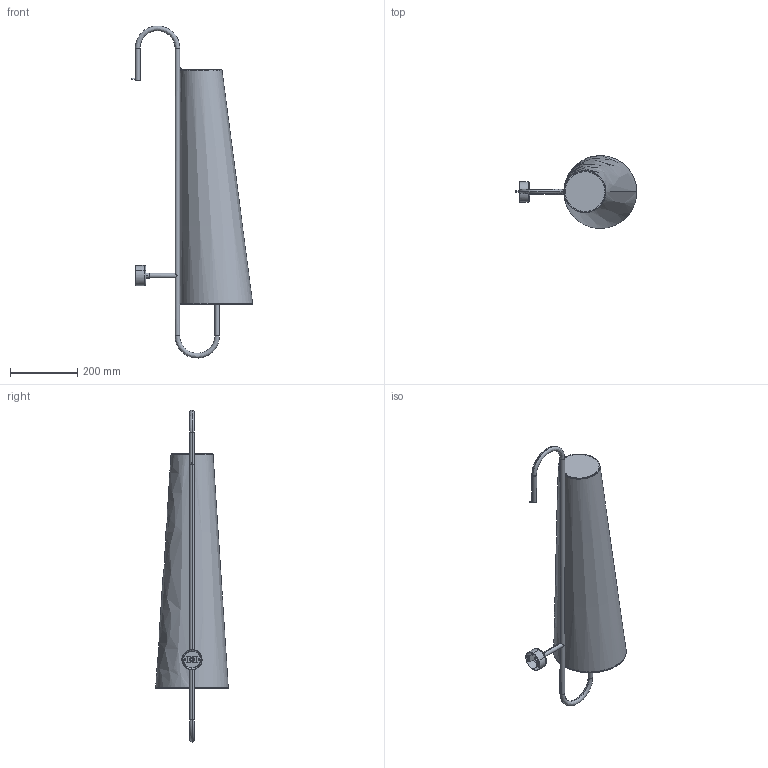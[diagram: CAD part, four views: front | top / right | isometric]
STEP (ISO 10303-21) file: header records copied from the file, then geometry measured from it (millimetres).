
FILE_DESCRIPTION(/* description */ (''),/* implementation_level */ '2;1');
FILE_NAME(/* name */ 'Ancora lamp series_03',/* time_stamp */ '2023-09-20T08:34:46+02:00',/* author */ (''),/* organization */ (''),/* preprocessor_version */ 'ST-DEVELOPER v16.5',/* originating_system */ 'Rhino 7.33',/* authorisation */ '');
FILE_SCHEMA (('CONFIG_CONTROL_DESIGN'));
Length unit declared in the file: millimetre
Products named in the file (8): Document; GUDINGTIEJIAN; BIHE; COVER; DENGBEI; NONE; BREP_7; BREP_5
Assembly tree (10 placements, depth 2):
  Document
    GUDINGTIEJIAN
    BIHE
    COVER
    DENGBEI  x2
    NONE  x2
    BREP_7  x2
    BREP_5
Bounding box: 360.97 x 216.18 x 986.38 mm (x, y, z)
Volume: 384904.5 mm3; surface area: 684247.1 mm2
Topology: 19 solids, 23 shells, 742 faces, 1634 edges, 919 vertices
Faces by surface type: bspline 444, plane 162, cylinder 136
Entity records: 20799 total; most frequent: CARTESIAN_POINT 12737, ORIENTED_EDGE 2323, EDGE_CURVE 1168, VERTEX_POINT 674, B_SPLINE_CURVE_WITH_KNOTS 620, EDGE_LOOP 563, ADVANCED_FACE 524, FACE_OUTER_BOUND 524
